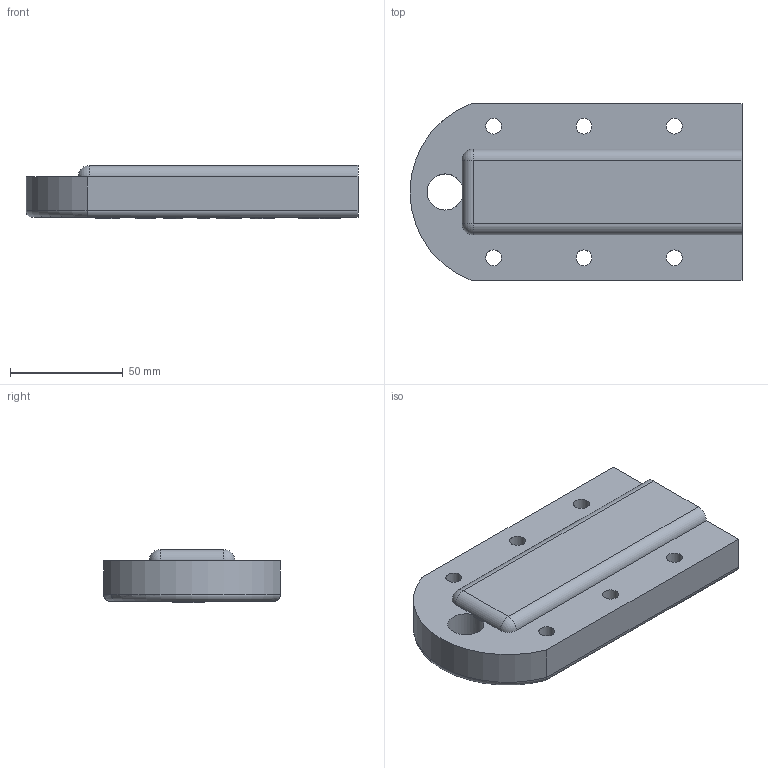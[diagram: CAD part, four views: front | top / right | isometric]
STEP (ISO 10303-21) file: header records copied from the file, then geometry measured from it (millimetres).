
FILE_DESCRIPTION(('STEP AP203'), '1');
FILE_NAME('ãîëîâêà ãðèôà', '2016-07-06T18:50:47', ('ss'), (''), 'ASCON STEP Converter 1.3', 'ASCON Math Kernel', '');
FILE_SCHEMA(('CONFIG_CONTROL_DESIGN'));
Length unit declared in the file: millimetre
Products named in the file (1): 1
Bounding box: 147.04 x 78.3 x 23.5 mm (x, y, z)
Volume: 175207 mm3; surface area: 40927.5 mm2
Topology: 1 solids, 1 shells, 421 faces, 1219 edges, 809 vertices
Faces by surface type: cylinder 307, plane 110, torus 2, sphere 2
Full cylindrical faces by diameter (mm): 7 x6, 16 x1
Entity records: 14217 total; most frequent: DIRECTION 2669, CARTESIAN_POINT 2476, ORIENTED_EDGE 2418, EDGE_CURVE 1209, AXIS2_PLACEMENT_3D 1040, VERTEX_POINT 809, CIRCLE 618, LINE 589
